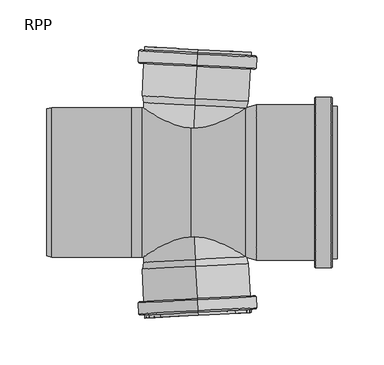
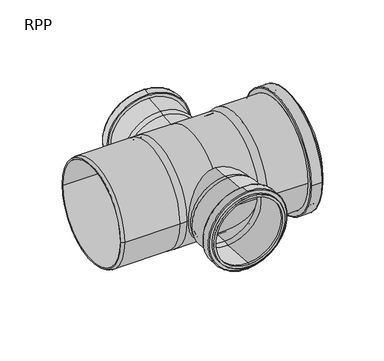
"""IFC4 building model written with IfcOpenShell, lengths in millimetres: pipe fitting geometry, RAUPIANO PLUS Double branch : RPP."""

from ifc_helpers import new_model, si_unit, point, frame, origin, place, context, project, spatial, polyline, circle_curve, ellipse_curve, trimmed, source, transform, mapped, element, save
from ifc_brep_helpers import plane_surface, cylinder_surface, revolved_surface, advanced_brep


def rpp_5ed4127f(model_context):
    return source(origin(), model_context, "Body", "AdvancedBrep", [
        advanced_brep(
        [(58.5, 80.0, 0.0), (58.5, -80.0, 0.0), (69.5, -82.9474411, 0.0), (69.5, 82.9474411, 0.0), (0.0, 80.0, 0.0), (0.0, -80.0, 0.0), (-52.3659564, 80.0, 0.0), (-52.3659564, -80.0, 0.0), (-63.5, 80.0, 0.0), (-63.5, -80.0, 0.0), (-148.5, 80.0, 0.0), (-148.5, -80.0, 0.0), (-154.0, 78.5262794, 0.0), (-154.0, -78.5262794, 0.0), (-63.5, 76.1, 0.0), (-63.5, -76.1, 0.0), (-154.0, -76.1, 0.0), (-154.0, 76.1, 0.0), (-52.2883429, 76.1, 0.0), (-52.2883429, -76.1, 0.0), (0.0, 76.1, 0.0), (0.0, -76.1, 0.0), (58.5, 76.1, 0.0), (58.5, -76.1, 0.0), (69.5, 79.0474411, 0.0), (69.5, -79.0474411, 0.0), (150.5, 79.0474411, 0.0), (150.5, -79.0474411, 0.0), (156.0, 79.0474411, 0.0), (156.0, -79.0474411, 0.0), (150.5, 81.6076952, 0.0), (150.5, -81.6076952, 0.0), (156.0, -81.6076952, 0.0), (156.0, 81.6076952, 0.0), (149.5, 91.0974411, 0.0), (149.5, -91.0974411, 0.0), (150.5, -90.0974411, 0.0), (150.5, 90.0974411, 0.0), (133.1, 91.0974411, 0.0), (133.1, -91.0974411, 0.0), (132.1, 90.0974411, 0.0), (132.1, -90.0974411, 0.0), (132.1, -82.9474411, 0.0), (132.1, 82.9474411, 0.0)],
        [
            (0, 1, circle_curve(frame((58.5, 0.0, 0.0), z_axis=(1.0, 0.0, 0.0), x_axis=(0.0, -1.0, 0.0)), 80.0)),
            (1, 2),
            (2, 3, circle_curve(frame((69.5, 0.0, 0.0), z_axis=(-1.0, 0.0, 0.0), x_axis=(0.0, -1.0, 0.0)), 82.9474411)),
            (3, 0),
            (0, 4),
            (4, 5, circle_curve(frame((0.0, 0.0, 0.0), z_axis=(1.0, 0.0, 0.0), x_axis=(0.0, -1.0, 0.0)), 80.0)),
            (5, 1),
            (4, 6),
            (6, 7, circle_curve(frame((-52.3659564, 0.0, 0.0), z_axis=(1.0, 0.0, 0.0), x_axis=(0.0, -1.0, 0.0)), 80.0)),
            (7, 5),
            (6, 8),
            (8, 9, circle_curve(frame((-63.5, 0.0, 0.0), z_axis=(1.0, 0.0, 0.0), x_axis=(0.0, -1.0, 0.0)), 80.0)),
            (9, 7),
            (8, 10),
            (10, 11, circle_curve(frame((-148.5, 0.0, 0.0), z_axis=(1.0, 0.0, 0.0), x_axis=(0.0, -1.0, 0.0)), 80.0)),
            (11, 9),
            (10, 12),
            (12, 13, circle_curve(frame((-154.0, 0.0, 0.0), z_axis=(1.0, 0.0, 0.0), x_axis=(0.0, -1.0, 0.0)), 78.5262794)),
            (13, 11),
            (14, 15, circle_curve(frame((-63.5, 0.0, 0.0), z_axis=(1.0, 0.0, 0.0), x_axis=(0.0, -1.0, 0.0)), 76.1)),
            (15, 16),
            (16, 17, circle_curve(frame((-154.0, 0.0, 0.0), z_axis=(-1.0, 0.0, 0.0), x_axis=(0.0, -1.0, 0.0)), 76.1)),
            (17, 14),
            (14, 18),
            (18, 19, circle_curve(frame((-52.2883429, 0.0, 0.0), z_axis=(1.0, 0.0, 0.0), x_axis=(0.0, -1.0, 0.0)), 76.1)),
            (19, 15),
            (18, 20),
            (20, 21, circle_curve(frame((0.0, 0.0, 0.0), z_axis=(1.0, 0.0, 0.0), x_axis=(0.0, -1.0, 0.0)), 76.1)),
            (21, 19),
            (20, 22),
            (22, 23, circle_curve(frame((58.5, 0.0, 0.0), z_axis=(1.0, 0.0, 0.0), x_axis=(0.0, -1.0, 0.0)), 76.1)),
            (23, 21),
            (22, 24),
            (24, 25, circle_curve(frame((69.5, 0.0, 0.0), z_axis=(1.0, 0.0, 0.0), x_axis=(0.0, -1.0, 0.0)), 79.0474411)),
            (25, 23),
            (24, 26),
            (26, 27, circle_curve(frame((150.5, 0.0, 0.0), z_axis=(1.0, 0.0, 0.0), x_axis=(0.0, -1.0, 0.0)), 79.0474411)),
            (27, 25),
            (26, 28),
            (28, 29, circle_curve(frame((156.0, 0.0, 0.0), z_axis=(1.0, 0.0, 0.0), x_axis=(0.0, -1.0, 0.0)), 79.0474411)),
            (29, 27),
            (30, 31, circle_curve(frame((150.5, 0.0, 0.0), z_axis=(1.0, 0.0, 0.0), x_axis=(0.0, -1.0, 0.0)), 81.6076952)),
            (31, 32),
            (32, 33, circle_curve(frame((156.0, 0.0, 0.0), z_axis=(-1.0, 0.0, 0.0), x_axis=(0.0, -1.0, 0.0)), 81.6076952)),
            (33, 30),
            (34, 35, circle_curve(frame((149.5, 0.0, 0.0), z_axis=(1.0, 0.0, 0.0), x_axis=(0.0, -1.0, 0.0)), 91.0974411)),
            (35, 36, circle_curve(frame((149.5, -90.0974411, 0.0), z_axis=(0.0, 0.0, 1.0), x_axis=(1.0, 0.0, 0.0)), 1.0)),
            (36, 37, circle_curve(frame((150.5, 0.0, 0.0), z_axis=(-1.0, 0.0, 0.0), x_axis=(0.0, -1.0, 0.0)), 90.0974411)),
            (37, 34, circle_curve(frame((149.5, 90.0974411, 0.0), z_axis=(0.0, 0.0, 1.0), x_axis=(1.0, 0.0, 0.0)), 1.0)),
            (34, 38),
            (38, 39, circle_curve(frame((133.1, 0.0, 0.0), z_axis=(1.0, 0.0, 0.0), x_axis=(0.0, -1.0, 0.0)), 91.0974411)),
            (39, 35),
            (38, 40, circle_curve(frame((133.1, 90.0974411, 0.0), z_axis=(0.0, 0.0, 1.0), x_axis=(1.0, 0.0, 0.0)), 1.0)),
            (40, 41, circle_curve(frame((132.1, 0.0, 0.0), z_axis=(1.0, 0.0, 0.0), x_axis=(0.0, -1.0, 0.0)), 90.0974411)),
            (41, 39, circle_curve(frame((133.1, -90.0974411, 0.0), z_axis=(0.0, 0.0, 1.0), x_axis=(1.0, 0.0, 0.0)), 1.0)),
            (2, 42),
            (42, 43, circle_curve(frame((132.1, 0.0, 0.0), z_axis=(-1.0, 0.0, 0.0), x_axis=(0.0, -1.0, 0.0)), 82.9474411)),
            (43, 3),
            (1, 0, circle_curve(frame((58.5, 0.0, 0.0), z_axis=(1.0, 0.0, 0.0), x_axis=(0.0, 1.0, 0.0)), 80.0)),
            (3, 2, circle_curve(frame((69.5, 0.0, 0.0), z_axis=(-1.0, 0.0, 0.0), x_axis=(0.0, 1.0, 0.0)), 82.9474411)),
            (5, 4, circle_curve(frame((0.0, 0.0, 0.0), z_axis=(1.0, 0.0, 0.0), x_axis=(0.0, 1.0, 0.0)), 80.0)),
            (7, 6, circle_curve(frame((-52.3659564, 0.0, 0.0), z_axis=(1.0, 0.0, 0.0), x_axis=(0.0, 1.0, 0.0)), 80.0)),
            (9, 8, circle_curve(frame((-63.5, 0.0, 0.0), z_axis=(1.0, 0.0, 0.0), x_axis=(0.0, 1.0, 0.0)), 80.0)),
            (11, 10, circle_curve(frame((-148.5, 0.0, 0.0), z_axis=(1.0, 0.0, 0.0), x_axis=(0.0, 1.0, 0.0)), 80.0)),
            (13, 12, circle_curve(frame((-154.0, 0.0, 0.0), z_axis=(1.0, 0.0, 0.0), x_axis=(0.0, 1.0, 0.0)), 78.5262794)),
            (16, 17, circle_curve(frame((-154.0, 0.0, 0.0), z_axis=(1.0, 0.0, 0.0), x_axis=(0.0, 1.0, 0.0)), 76.1)),
            (15, 14, circle_curve(frame((-63.5, 0.0, 0.0), z_axis=(1.0, 0.0, 0.0), x_axis=(0.0, 1.0, 0.0)), 76.1)),
            (19, 18, circle_curve(frame((-52.2883429, 0.0, 0.0), z_axis=(1.0, 0.0, 0.0), x_axis=(0.0, 1.0, 0.0)), 76.1)),
            (21, 20, circle_curve(frame((0.0, 0.0, 0.0), z_axis=(1.0, 0.0, 0.0), x_axis=(0.0, 1.0, 0.0)), 76.1)),
            (23, 22, circle_curve(frame((58.5, 0.0, 0.0), z_axis=(1.0, 0.0, 0.0), x_axis=(0.0, 1.0, 0.0)), 76.1)),
            (25, 24, circle_curve(frame((69.5, 0.0, 0.0), z_axis=(1.0, 0.0, 0.0), x_axis=(0.0, 1.0, 0.0)), 79.0474411)),
            (27, 26, circle_curve(frame((150.5, 0.0, 0.0), z_axis=(1.0, 0.0, 0.0), x_axis=(0.0, 1.0, 0.0)), 79.0474411)),
            (29, 28, circle_curve(frame((156.0, 0.0, 0.0), z_axis=(1.0, 0.0, 0.0), x_axis=(0.0, 1.0, 0.0)), 79.0474411)),
            (32, 33, circle_curve(frame((156.0, 0.0, 0.0), z_axis=(1.0, 0.0, 0.0), x_axis=(0.0, 1.0, 0.0)), 81.6076952)),
            (31, 30, circle_curve(frame((150.5, 0.0, 0.0), z_axis=(1.0, 0.0, 0.0), x_axis=(0.0, 1.0, 0.0)), 81.6076952)),
            (36, 37, circle_curve(frame((150.5, 0.0, 0.0), z_axis=(1.0, 0.0, 0.0), x_axis=(0.0, 1.0, 0.0)), 90.0974411)),
            (35, 34, circle_curve(frame((149.5, 0.0, 0.0), z_axis=(1.0, 0.0, 0.0), x_axis=(0.0, 1.0, 0.0)), 91.0974411)),
            (39, 38, circle_curve(frame((133.1, 0.0, 0.0), z_axis=(1.0, 0.0, 0.0), x_axis=(0.0, 1.0, 0.0)), 91.0974411)),
            (41, 40, circle_curve(frame((132.1, 0.0, 0.0), z_axis=(1.0, 0.0, 0.0), x_axis=(0.0, 1.0, 0.0)), 90.0974411)),
            (42, 43, circle_curve(frame((132.1, 0.0, 0.0), z_axis=(1.0, 0.0, 0.0), x_axis=(0.0, 1.0, 0.0)), 82.9474411)),
        ],
        [
            revolved_surface(polyline([(69.5, -82.9474411, 0.0), (58.5, -80.0, 0.0)]), (0.0, 0.0, 0.0), (-1.0, 0.0, 0.0)),
            cylinder_surface(frame((0.0, 0.0, 0.0), z_axis=(-1.0, 0.0, 0.0), x_axis=(0.0, -1.0, 0.0)), 80.0),
            revolved_surface(polyline([(-148.5, -80.0, 0.0), (-154.0, -78.5262794, 0.0)]), (0.0, 0.0, 0.0), (-1.0, 0.0, 0.0)),
            revolved_surface(polyline([(-154.0, -76.1, 0.0), (-63.5, -76.1, 0.0)]), (0.0, 0.0, 0.0), (-1.0, 0.0, 0.0)),
            revolved_surface(polyline([(-63.5, -76.1, 0.0), (-52.2883429, -76.1, 0.0)]), (0.0, 0.0, 0.0), (-1.0, 0.0, 0.0)),
            revolved_surface(polyline([(-52.2883429, -76.1, 0.0), (0.0, -76.1, 0.0)]), (0.0, 0.0, 0.0), (-1.0, 0.0, 0.0)),
            revolved_surface(polyline([(0.0, -76.1, 0.0), (58.5, -76.1, 0.0)]), (0.0, 0.0, 0.0), (-1.0, 0.0, 0.0)),
            revolved_surface(polyline([(58.5, -76.1, 0.0), (69.5, -79.0474411, 0.0)]), (0.0, 0.0, 0.0), (-1.0, 0.0, 0.0)),
            revolved_surface(polyline([(69.5, -79.0474411, 0.0), (150.5, -79.0474411, 0.0)]), (0.0, 0.0, 0.0), (-1.0, 0.0, 0.0)),
            revolved_surface(polyline([(150.5, -79.0474411, 0.0), (156.0, -79.0474411, 0.0)]), (0.0, 0.0, 0.0), (-1.0, 0.0, 0.0)),
            cylinder_surface(frame((0.0, 0.0, 0.0), z_axis=(-1.0, 0.0, 0.0), x_axis=(0.0, -1.0, 0.0)), 81.6076952),
            revolved_surface(trimmed(ellipse_curve(frame((149.5, -90.0974411, 0.0), z_axis=(0.0, 0.0, -1.0), x_axis=(1.0, 0.0, 0.0)), 1.0, 1.0), [point((150.5, -90.0974411, 0.0))], [point((149.5, -91.0974411, 0.0))], True, "CARTESIAN"), (0.0, 0.0, 0.0), (-1.0, 0.0, 0.0)),
            cylinder_surface(frame((0.0, 0.0, 0.0), z_axis=(-1.0, 0.0, 0.0), x_axis=(0.0, -1.0, 0.0)), 91.0974411),
            revolved_surface(trimmed(ellipse_curve(frame((133.1, -90.0974411, 0.0), z_axis=(0.0, 0.0, -1.0), x_axis=(1.0, 0.0, 0.0)), 1.0, 1.0), [point((133.1, -91.0974411, 0.0))], [point((132.1, -90.0974411, 0.0))], True, "CARTESIAN"), (0.0, 0.0, 0.0), (-1.0, 0.0, 0.0)),
            cylinder_surface(frame((0.0, 0.0, 0.0), z_axis=(-1.0, 0.0, 0.0), x_axis=(0.0, -1.0, 0.0)), 82.9474411),
            revolved_surface(polyline([(69.5, 82.9474411, 0.0), (58.5, 80.0, 0.0)]), (0.0, 0.0, 0.0), (-1.0, 0.0, 0.0)),
            cylinder_surface(frame((0.0, 0.0, 0.0), z_axis=(-1.0, 0.0, 0.0), x_axis=(0.0, 1.0, 0.0)), 80.0),
            revolved_surface(polyline([(-148.5, 80.0, 0.0), (-154.0, 78.5262794, 0.0)]), (0.0, 0.0, 0.0), (-1.0, 0.0, 0.0)),
            plane_surface(frame((-154.0, 0.0, 0.0), z_axis=(-1.0, 0.0, 0.0), x_axis=(0.0, 1.0, 0.0))),
            revolved_surface(polyline([(-154.0, 76.1, 0.0), (-63.5, 76.1, 0.0)]), (0.0, 0.0, 0.0), (-1.0, 0.0, 0.0)),
            revolved_surface(polyline([(-63.5, 76.1, 0.0), (-52.2883429, 76.1, 0.0)]), (0.0, 0.0, 0.0), (-1.0, 0.0, 0.0)),
            revolved_surface(polyline([(-52.2883429, 76.1, 0.0), (0.0, 76.1, 0.0)]), (0.0, 0.0, 0.0), (-1.0, 0.0, 0.0)),
            revolved_surface(polyline([(0.0, 76.1, 0.0), (58.5, 76.1, 0.0)]), (0.0, 0.0, 0.0), (-1.0, 0.0, 0.0)),
            revolved_surface(polyline([(58.5, 76.1, 0.0), (69.5, 79.0474411, 0.0)]), (0.0, 0.0, 0.0), (-1.0, 0.0, 0.0)),
            revolved_surface(polyline([(69.5, 79.0474411, 0.0), (150.5, 79.0474411, 0.0)]), (0.0, 0.0, 0.0), (-1.0, 0.0, 0.0)),
            revolved_surface(polyline([(150.5, 79.0474411, 0.0), (156.0, 79.0474411, 0.0)]), (0.0, 0.0, 0.0), (-1.0, 0.0, 0.0)),
            plane_surface(frame((156.0, 0.0, 0.0), z_axis=(1.0, 0.0, 0.0), x_axis=(0.0, 1.0, 0.0))),
            cylinder_surface(frame((0.0, 0.0, 0.0), z_axis=(-1.0, 0.0, 0.0), x_axis=(0.0, 1.0, 0.0)), 81.6076952),
            plane_surface(frame((150.5, 0.0, 0.0), z_axis=(1.0, 0.0, 0.0), x_axis=(0.0, 1.0, 0.0))),
            revolved_surface(trimmed(ellipse_curve(frame((149.5, 90.0974411, 0.0), z_axis=(0.0, 0.0, 1.0), x_axis=(1.0, 0.0, 0.0)), 1.0, 1.0), [point((150.5, 90.0974411, 0.0))], [point((149.5, 91.0974411, 0.0))], True, "CARTESIAN"), (0.0, 0.0, 0.0), (-1.0, 0.0, 0.0)),
            cylinder_surface(frame((0.0, 0.0, 0.0), z_axis=(-1.0, 0.0, 0.0), x_axis=(0.0, 1.0, 0.0)), 91.0974411),
            revolved_surface(trimmed(ellipse_curve(frame((133.1, 90.0974411, 0.0), z_axis=(0.0, 0.0, 1.0), x_axis=(1.0, 0.0, 0.0)), 1.0, 1.0), [point((133.1, 91.0974411, 0.0))], [point((132.1, 90.0974411, 0.0))], True, "CARTESIAN"), (0.0, 0.0, 0.0), (-1.0, 0.0, 0.0)),
            plane_surface(frame((132.1, 0.0, 0.0), z_axis=(-1.0, 0.0, 0.0), x_axis=(0.0, 1.0, 0.0))),
            cylinder_surface(frame((0.0, 0.0, 0.0), z_axis=(-1.0, 0.0, 0.0), x_axis=(0.0, 1.0, 0.0)), 82.9474411),
        ],
        [
            (0, [[1, 2, 3, 4]]),
            (1, [[-1, 5, 6, 7]]),
            (1, [[-6, 8, 9, 10]]),
            (1, [[-9, 11, 12, 13]]),
            (1, [[-12, 14, 15, 16]]),
            (2, [[-15, 17, 18, 19]]),
            (3, [[20, 21, 22, 23]]),
            (4, [[-20, 24, 25, 26]]),
            (5, [[-25, 27, 28, 29]]),
            (6, [[-28, 30, 31, 32]]),
            (7, [[-31, 33, 34, 35]]),
            (8, [[-34, 36, 37, 38]]),
            (9, [[-37, 39, 40, 41]]),
            (10, [[42, 43, 44, 45]]),
            (11, [[46, 47, 48, 49]]),
            (12, [[-46, 50, 51, 52]]),
            (13, [[-51, 53, 54, 55]]),
            (14, [[-3, 56, 57, 58]]),
            (15, [[-2, 59, -4, 60]]),
            (16, [[-7, 61, -5, -59]]),
            (16, [[-10, 62, -8, -61]]),
            (16, [[-13, 63, -11, -62]]),
            (16, [[-16, 64, -14, -63]]),
            (17, [[-19, 65, -17, -64]]),
            (18, [[-18, -65], [-22, 66]]),
            (19, [[-21, 67, -23, -66]]),
            (20, [[-26, 68, -24, -67]]),
            (21, [[-29, 69, -27, -68]]),
            (22, [[-32, 70, -30, -69]]),
            (23, [[-35, 71, -33, -70]]),
            (24, [[-38, 72, -36, -71]]),
            (25, [[-41, 73, -39, -72]]),
            (26, [[-44, 74], [-40, -73]]),
            (27, [[-43, 75, -45, -74]]),
            (28, [[-48, 76], [-42, -75]]),
            (29, [[-47, 77, -49, -76]]),
            (30, [[-52, 78, -50, -77]]),
            (31, [[-55, 79, -53, -78]]),
            (32, [[-54, -79], [-57, 80]]),
            (33, [[-56, -60, -58, -80]]),
        ],
    ),
        advanced_brep(
        [(4.3124828, -82.2870737, 55.0), (4.3124828, -82.2870737, -55.0), (4.6893017, -89.4772063, -56.9292342), (4.6893017, -89.4772063, 56.9292342), (4.6893017, -89.4772063, 53.0292342), (4.6893017, -89.4772063, -53.0292342), (4.3124828, -82.2870737, -51.1), (4.3124828, -82.2870737, 51.1), (7.2432963, -138.2103276, 53.0292342), (7.2432963, -138.2103276, -53.0292342), (7.4317058, -141.8053939, 53.0292342), (7.4317058, -141.8053939, -53.0292342), (7.2432963, -138.2103276, 56.6076952), (7.2432963, -138.2103276, -56.6076952), (7.4317058, -141.8053939, -56.6076952), (7.4317058, -141.8053939, 56.6076952), (7.1909604, -137.2116981, 62.9292342), (7.1909604, -137.2116981, -62.9292342), (7.2432963, -138.2103276, -61.9292342), (7.2432963, -138.2103276, 61.9292342), (6.5681625, -125.3280066, 62.9292342), (6.5681625, -125.3280066, -62.9292342), (6.5158266, -124.3293771, 61.9292342), (6.5158266, -124.3293771, -61.9292342), (6.5158266, -124.3293771, -56.9292342), (6.5158266, -124.3293771, 56.9292342)],
        [
            (0, 1, circle_curve(frame((4.3124828, -82.2870737, 0.0), z_axis=(0.052335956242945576, -0.9986295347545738, 0.0), x_axis=(0.0, 0.0, -1.0)), 55.0)),
            (1, 2),
            (2, 3, circle_curve(frame((4.6893017, -89.4772063, 0.0), z_axis=(-0.052335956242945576, 0.9986295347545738, 0.0), x_axis=(0.0, 0.0, -1.0)), 56.9292342)),
            (3, 0),
            (4, 5, circle_curve(frame((4.6893017, -89.4772063, 0.0), z_axis=(0.052335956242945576, -0.9986295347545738, 0.0), x_axis=(0.0, 0.0, -1.0)), 53.0292342)),
            (5, 6),
            (6, 7, circle_curve(frame((4.3124828, -82.2870737, 0.0), z_axis=(-0.052335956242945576, 0.9986295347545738, 0.0), x_axis=(0.0, 0.0, -1.0)), 51.1)),
            (7, 4),
            (8, 9, circle_curve(frame((7.2432963, -138.2103276, 0.0), z_axis=(0.052335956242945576, -0.9986295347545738, 0.0), x_axis=(0.0, 0.0, -1.0)), 53.0292342)),
            (9, 5),
            (4, 8),
            (10, 11, circle_curve(frame((7.4317058, -141.8053939, 0.0), z_axis=(0.052335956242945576, -0.9986295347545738, 0.0), x_axis=(0.0, 0.0, -1.0)), 53.0292342)),
            (11, 9),
            (8, 10),
            (12, 13, circle_curve(frame((7.2432963, -138.2103276, 0.0), z_axis=(0.052335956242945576, -0.9986295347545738, 0.0), x_axis=(0.0, 0.0, -1.0)), 56.6076952)),
            (13, 14),
            (14, 15, circle_curve(frame((7.4317058, -141.8053939, 0.0), z_axis=(-0.052335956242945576, 0.9986295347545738, 0.0), x_axis=(0.0, 0.0, -1.0)), 56.6076952)),
            (15, 12),
            (16, 17, circle_curve(frame((7.1909604, -137.2116981, 0.0), z_axis=(0.052335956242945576, -0.9986295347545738, 0.0), x_axis=(0.0, 0.0, -1.0)), 62.9292342)),
            (17, 18, circle_curve(frame((7.1909604, -137.2116981, -61.9292342), z_axis=(-0.9986295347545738, -0.05233595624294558, 0.0), x_axis=(0.05233595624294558, -0.9986295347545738, 0.0)), 1.0)),
            (18, 19, circle_curve(frame((7.2432963, -138.2103276, 0.0), z_axis=(-0.052335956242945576, 0.9986295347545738, 0.0), x_axis=(0.0, 0.0, -1.0)), 61.9292342)),
            (19, 16, circle_curve(frame((7.1909604, -137.2116981, 61.9292342), z_axis=(-0.9986295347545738, -0.05233595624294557, 0.0), x_axis=(0.05233595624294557, -0.9986295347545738, 0.0)), 1.0)),
            (20, 21, circle_curve(frame((6.5681625, -125.3280066, 0.0), z_axis=(0.052335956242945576, -0.9986295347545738, 0.0), x_axis=(0.0, 0.0, -1.0)), 62.9292342)),
            (21, 17),
            (16, 20),
            (22, 23, circle_curve(frame((6.5158266, -124.3293771, 0.0), z_axis=(0.052335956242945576, -0.9986295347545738, 0.0), x_axis=(0.0, 0.0, -1.0)), 61.9292342)),
            (23, 21, circle_curve(frame((6.5681625, -125.3280066, -61.9292342), z_axis=(-0.9986295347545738, -0.05233595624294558, 0.0), x_axis=(0.05233595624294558, -0.9986295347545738, 0.0)), 1.0)),
            (20, 22, circle_curve(frame((6.5681625, -125.3280066, 61.9292342), z_axis=(-0.9986295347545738, -0.05233595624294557, 0.0), x_axis=(0.05233595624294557, -0.9986295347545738, 0.0)), 1.0)),
            (2, 24),
            (24, 25, circle_curve(frame((6.5158266, -124.3293771, 0.0), z_axis=(-0.052335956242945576, 0.9986295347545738, 0.0), x_axis=(0.0, 0.0, -1.0)), 56.9292342)),
            (25, 3),
            (1, 0, circle_curve(frame((4.3124828, -82.2870737, 0.0), z_axis=(0.052335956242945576, -0.9986295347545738, 0.0), x_axis=(0.0, 0.0, 1.0)), 55.0)),
            (3, 2, circle_curve(frame((4.6893017, -89.4772063, 0.0), z_axis=(-0.052335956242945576, 0.9986295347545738, 0.0), x_axis=(0.0, 0.0, 1.0)), 56.9292342)),
            (6, 7, circle_curve(frame((4.3124828, -82.2870737, 0.0), z_axis=(0.052335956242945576, -0.9986295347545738, 0.0), x_axis=(0.0, 0.0, 1.0)), 51.1)),
            (5, 4, circle_curve(frame((4.6893017, -89.4772063, 0.0), z_axis=(0.052335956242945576, -0.9986295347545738, 0.0), x_axis=(0.0, 0.0, 1.0)), 53.0292342)),
            (9, 8, circle_curve(frame((7.2432963, -138.2103276, 0.0), z_axis=(0.052335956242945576, -0.9986295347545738, 0.0), x_axis=(0.0, 0.0, 1.0)), 53.0292342)),
            (11, 10, circle_curve(frame((7.4317058, -141.8053939, 0.0), z_axis=(0.052335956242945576, -0.9986295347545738, 0.0), x_axis=(0.0, 0.0, 1.0)), 53.0292342)),
            (14, 15, circle_curve(frame((7.4317058, -141.8053939, 0.0), z_axis=(0.052335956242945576, -0.9986295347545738, 0.0), x_axis=(0.0, 0.0, 1.0)), 56.6076952)),
            (13, 12, circle_curve(frame((7.2432963, -138.2103276, 0.0), z_axis=(0.052335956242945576, -0.9986295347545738, 0.0), x_axis=(0.0, 0.0, 1.0)), 56.6076952)),
            (18, 19, circle_curve(frame((7.2432963, -138.2103276, 0.0), z_axis=(0.052335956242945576, -0.9986295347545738, 0.0), x_axis=(0.0, 0.0, 1.0)), 61.9292342)),
            (17, 16, circle_curve(frame((7.1909604, -137.2116981, 0.0), z_axis=(0.052335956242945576, -0.9986295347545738, 0.0), x_axis=(0.0, 0.0, 1.0)), 62.9292342)),
            (21, 20, circle_curve(frame((6.5681625, -125.3280066, 0.0), z_axis=(0.052335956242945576, -0.9986295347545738, 0.0), x_axis=(0.0, 0.0, 1.0)), 62.9292342)),
            (23, 22, circle_curve(frame((6.5158266, -124.3293771, 0.0), z_axis=(0.052335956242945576, -0.9986295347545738, 0.0), x_axis=(0.0, 0.0, 1.0)), 61.9292342)),
            (24, 25, circle_curve(frame((6.5158266, -124.3293771, 0.0), z_axis=(0.052335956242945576, -0.9986295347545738, 0.0), x_axis=(0.0, 0.0, 1.0)), 56.9292342)),
        ],
        [
            revolved_surface(polyline([(4.6893017, -89.4772063, -56.9292342), (4.3124828, -82.2870737, -55.0)]), (0.0, 0.0, 0.0), (-0.052335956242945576, 0.9986295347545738, 0.0)),
            revolved_surface(polyline([(4.3124828, -82.2870737, -51.1), (4.6893017, -89.4772063, -53.0292342)]), (0.0, 0.0, 0.0), (-0.052335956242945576, 0.9986295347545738, 0.0)),
            revolved_surface(polyline([(4.689301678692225, -89.47720630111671, -53.0292342), (7.243296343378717, -138.21032759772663, -53.0292342)]), (0.0, 0.0, 0.0), (-0.052335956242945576, 0.9986295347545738, 0.0)),
            revolved_surface(polyline([(7.243296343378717, -138.21032759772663, -53.0292342), (7.4317057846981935, -141.80539390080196, -53.0292342)]), (0.0, 0.0, 0.0), (-0.052335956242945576, 0.9986295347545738, 0.0)),
            cylinder_surface(frame((0.0, 0.0, 0.0), z_axis=(-0.052335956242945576, 0.9986295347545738, 0.0), x_axis=(0.0, 0.0, -1.0)), 56.6076952),
            revolved_surface(trimmed(ellipse_curve(frame((7.1909604, -137.2116981, -61.9292342), z_axis=(0.9986295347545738, 0.05233595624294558, 0.0), x_axis=(0.05233595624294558, -0.9986295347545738, 0.0)), 1.0, 1.0), [point((7.2432963, -138.2103276, -61.9292342))], [point((7.1909604, -137.2116981, -62.9292342))], True, "CARTESIAN"), (0.0, 0.0, 0.0), (-0.052335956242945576, 0.9986295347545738, 0.0)),
            cylinder_surface(frame((0.0, 0.0, 0.0), z_axis=(-0.052335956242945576, 0.9986295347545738, 0.0), x_axis=(0.0, 0.0, -1.0)), 62.9292342),
            revolved_surface(trimmed(ellipse_curve(frame((6.5681625, -125.3280066, -61.9292342), z_axis=(0.9986295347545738, 0.05233595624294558, 0.0), x_axis=(0.05233595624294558, -0.9986295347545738, 0.0)), 1.0, 1.0), [point((6.5681625, -125.3280066, -62.9292342))], [point((6.5158266, -124.3293771, -61.9292342))], True, "CARTESIAN"), (0.0, 0.0, 0.0), (-0.052335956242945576, 0.9986295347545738, 0.0)),
            cylinder_surface(frame((0.0, 0.0, 0.0), z_axis=(-0.052335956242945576, 0.9986295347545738, 0.0), x_axis=(0.0, 0.0, -1.0)), 56.9292342),
            revolved_surface(polyline([(4.6893017, -89.4772063, 56.9292342), (4.3124828, -82.2870737, 55.0)]), (0.0, 0.0, 0.0), (-0.052335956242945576, 0.9986295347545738, 0.0)),
            plane_surface(frame((4.3124828, -82.2870737, 0.0), z_axis=(-0.052335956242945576, 0.9986295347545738, 0.0), x_axis=(0.0, 0.0, 1.0))),
            revolved_surface(polyline([(4.3124828, -82.2870737, 51.1), (4.6893017, -89.4772063, 53.0292342)]), (0.0, 0.0, 0.0), (-0.052335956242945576, 0.9986295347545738, 0.0)),
            revolved_surface(polyline([(4.689301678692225, -89.47720630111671, 53.0292342), (7.243296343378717, -138.21032759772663, 53.0292342)]), (0.0, 0.0, 0.0), (-0.052335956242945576, 0.9986295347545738, 0.0)),
            revolved_surface(polyline([(7.243296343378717, -138.21032759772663, 53.0292342), (7.4317057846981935, -141.80539390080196, 53.0292342)]), (0.0, 0.0, 0.0), (-0.052335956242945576, 0.9986295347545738, 0.0)),
            plane_surface(frame((7.4317058, -141.8053939, 0.0), z_axis=(0.052335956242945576, -0.9986295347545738, 0.0), x_axis=(0.0, 0.0, 1.0))),
            cylinder_surface(frame((0.0, 0.0, 0.0), z_axis=(-0.052335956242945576, 0.9986295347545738, 0.0), x_axis=(0.0, 0.0, 1.0)), 56.6076952),
            plane_surface(frame((7.2432963, -138.2103276, 0.0), z_axis=(0.052335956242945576, -0.9986295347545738, 0.0), x_axis=(0.0, 0.0, 1.0))),
            revolved_surface(trimmed(ellipse_curve(frame((7.1909604, -137.2116981, 61.9292342), z_axis=(-0.9986295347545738, -0.052335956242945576, 0.0), x_axis=(0.052335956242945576, -0.9986295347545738, 0.0)), 1.0, 1.0), [point((7.2432963, -138.2103276, 61.9292342))], [point((7.1909604, -137.2116981, 62.9292342))], True, "CARTESIAN"), (0.0, 0.0, 0.0), (-0.052335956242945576, 0.9986295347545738, 0.0)),
            cylinder_surface(frame((0.0, 0.0, 0.0), z_axis=(-0.052335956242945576, 0.9986295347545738, 0.0), x_axis=(0.0, 0.0, 1.0)), 62.9292342),
            revolved_surface(trimmed(ellipse_curve(frame((6.5681625, -125.3280066, 61.9292342), z_axis=(-0.9986295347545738, -0.052335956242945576, 0.0), x_axis=(0.052335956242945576, -0.9986295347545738, 0.0)), 1.0, 1.0), [point((6.5681625, -125.3280066, 62.9292342))], [point((6.5158266, -124.3293771, 61.9292342))], True, "CARTESIAN"), (0.0, 0.0, 0.0), (-0.052335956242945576, 0.9986295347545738, 0.0)),
            plane_surface(frame((6.5158266, -124.3293771, 0.0), z_axis=(-0.052335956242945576, 0.9986295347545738, 0.0), x_axis=(0.0, 0.0, 1.0))),
            cylinder_surface(frame((0.0, 0.0, 0.0), z_axis=(-0.052335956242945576, 0.9986295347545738, 0.0), x_axis=(0.0, 0.0, 1.0)), 56.9292342),
        ],
        [
            (0, [[1, 2, 3, 4]]),
            (1, [[5, 6, 7, 8]]),
            (2, [[9, 10, -5, 11]]),
            (3, [[12, 13, -9, 14]]),
            (4, [[15, 16, 17, 18]]),
            (5, [[19, 20, 21, 22]]),
            (6, [[23, 24, -19, 25]]),
            (7, [[26, 27, -23, 28]]),
            (8, [[-3, 29, 30, 31]]),
            (9, [[32, -4, 33, -2]]),
            (10, [[-32, -1], [34, -7]]),
            (11, [[35, -8, -34, -6]]),
            (12, [[36, -11, -35, -10]]),
            (13, [[37, -14, -36, -13]]),
            (14, [[38, -17], [-37, -12]]),
            (15, [[39, -18, -38, -16]]),
            (16, [[40, -21], [-39, -15]]),
            (17, [[41, -22, -40, -20]]),
            (18, [[42, -25, -41, -24]]),
            (19, [[43, -28, -42, -27]]),
            (20, [[-43, -26], [44, -30]]),
            (21, [[-33, -31, -44, -29]]),
        ],
    ),
        advanced_brep(
        [(4.3124828, -82.2870737, 55.0), (4.3124828, -82.2870737, -55.0), (4.6893017, -89.4772063, -56.9292342), (4.6893017, -89.4772063, 56.9292342), (0.0, 0.0, 55.0), (0.0, 0.0, -55.0), (4.3124828, -82.2870737, 51.1), (4.3124828, -82.2870737, -51.1), (0.0, 0.0, -51.1), (0.0, 0.0, 51.1), (4.6893017, -89.4772063, 53.0292342), (4.6893017, -89.4772063, -53.0292342), (7.2432963, -138.2103276, 53.0292342), (7.2432963, -138.2103276, -53.0292342), (7.4317058, -141.8053939, 53.0292342), (7.4317058, -141.8053939, -53.0292342), (7.2432963, -138.2103276, 56.9292342), (7.2432963, -138.2103276, -56.9292342), (7.4317058, -141.8053939, -56.9292342), (7.4317058, -141.8053939, 56.9292342), (7.1909604, -137.2116981, 62.9292342), (7.1909604, -137.2116981, -62.9292342), (7.2432963, -138.2103276, -61.9292342), (7.2432963, -138.2103276, 61.9292342), (6.5681625, -125.3280066, 62.9292342), (6.5681625, -125.3280066, -62.9292342), (6.5158266, -124.3293771, 61.9292342), (6.5158266, -124.3293771, -61.9292342), (6.5158266, -124.3293771, -56.9292342), (6.5158266, -124.3293771, 56.9292342)],
        [
            (0, 1, circle_curve(frame((4.3124828, -82.2870737, 0.0), z_axis=(0.052335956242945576, -0.9986295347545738, 0.0), x_axis=(0.0, 0.0, -1.0)), 55.0)),
            (1, 2),
            (2, 3, circle_curve(frame((4.6893017, -89.4772063, 0.0), z_axis=(-0.052335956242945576, 0.9986295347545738, 0.0), x_axis=(0.0, 0.0, -1.0)), 56.9292342)),
            (3, 0),
            (4, 5, circle_curve(frame((0.0, 0.0, 0.0), z_axis=(0.052335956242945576, -0.9986295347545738, 0.0), x_axis=(0.0, 0.0, -1.0)), 55.0)),
            (5, 1),
            (0, 4),
            (6, 7, circle_curve(frame((4.3124828, -82.2870737, 0.0), z_axis=(0.052335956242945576, -0.9986295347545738, 0.0), x_axis=(0.0, 0.0, -1.0)), 51.1)),
            (7, 8),
            (8, 9, circle_curve(frame((0.0, 0.0, 0.0), z_axis=(-0.052335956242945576, 0.9986295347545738, 0.0), x_axis=(0.0, 0.0, -1.0)), 51.1)),
            (9, 6),
            (10, 11, circle_curve(frame((4.6893017, -89.4772063, 0.0), z_axis=(0.052335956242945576, -0.9986295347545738, 0.0), x_axis=(0.0, 0.0, -1.0)), 53.0292342)),
            (11, 7),
            (6, 10),
            (12, 13, circle_curve(frame((7.2432963, -138.2103276, 0.0), z_axis=(0.052335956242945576, -0.9986295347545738, 0.0), x_axis=(0.0, 0.0, -1.0)), 53.0292342)),
            (13, 11),
            (10, 12),
            (14, 15, circle_curve(frame((7.4317058, -141.8053939, 0.0), z_axis=(0.052335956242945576, -0.9986295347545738, 0.0), x_axis=(0.0, 0.0, -1.0)), 53.0292342)),
            (15, 13),
            (12, 14),
            (16, 17, circle_curve(frame((7.2432963, -138.2103276, 0.0), z_axis=(0.052335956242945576, -0.9986295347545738, 0.0), x_axis=(0.0, 0.0, -1.0)), 56.9292342)),
            (17, 18),
            (18, 19, circle_curve(frame((7.4317058, -141.8053939, 0.0), z_axis=(-0.052335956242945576, 0.9986295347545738, 0.0), x_axis=(0.0, 0.0, -1.0)), 56.9292342)),
            (19, 16),
            (20, 21, circle_curve(frame((7.1909604, -137.2116981, 0.0), z_axis=(0.052335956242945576, -0.9986295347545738, 0.0), x_axis=(0.0, 0.0, -1.0)), 62.9292342)),
            (21, 22, circle_curve(frame((7.1909604, -137.2116981, -61.9292342), z_axis=(-0.9986295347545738, -0.05233595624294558, 0.0), x_axis=(0.05233595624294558, -0.9986295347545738, 0.0)), 1.0)),
            (22, 23, circle_curve(frame((7.2432963, -138.2103276, 0.0), z_axis=(-0.052335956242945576, 0.9986295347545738, 0.0), x_axis=(0.0, 0.0, -1.0)), 61.9292342)),
            (23, 20, circle_curve(frame((7.1909604, -137.2116981, 61.9292342), z_axis=(-0.9986295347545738, -0.05233595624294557, 0.0), x_axis=(0.05233595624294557, -0.9986295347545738, 0.0)), 1.0)),
            (24, 25, circle_curve(frame((6.5681625, -125.3280066, 0.0), z_axis=(0.052335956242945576, -0.9986295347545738, 0.0), x_axis=(0.0, 0.0, -1.0)), 62.9292342)),
            (25, 21),
            (20, 24),
            (26, 27, circle_curve(frame((6.5158266, -124.3293771, 0.0), z_axis=(0.052335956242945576, -0.9986295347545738, 0.0), x_axis=(0.0, 0.0, -1.0)), 61.9292342)),
            (27, 25, circle_curve(frame((6.5681625, -125.3280066, -61.9292342), z_axis=(-0.9986295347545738, -0.05233595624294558, 0.0), x_axis=(0.05233595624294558, -0.9986295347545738, 0.0)), 1.0)),
            (24, 26, circle_curve(frame((6.5681625, -125.3280066, 61.9292342), z_axis=(-0.9986295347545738, -0.05233595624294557, 0.0), x_axis=(0.05233595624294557, -0.9986295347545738, 0.0)), 1.0)),
            (2, 28),
            (28, 29, circle_curve(frame((6.5158266, -124.3293771, 0.0), z_axis=(-0.052335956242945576, 0.9986295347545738, 0.0), x_axis=(0.0, 0.0, -1.0)), 56.9292342)),
            (29, 3),
            (1, 0, circle_curve(frame((4.3124828, -82.2870737, 0.0), z_axis=(0.052335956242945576, -0.9986295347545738, 0.0), x_axis=(0.0, 0.0, 1.0)), 55.0)),
            (3, 2, circle_curve(frame((4.6893017, -89.4772063, 0.0), z_axis=(-0.052335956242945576, 0.9986295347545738, 0.0), x_axis=(0.0, 0.0, 1.0)), 56.9292342)),
            (5, 4, circle_curve(frame((0.0, 0.0, 0.0), z_axis=(0.052335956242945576, -0.9986295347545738, 0.0), x_axis=(0.0, 0.0, 1.0)), 55.0)),
            (8, 9, circle_curve(frame((0.0, 0.0, 0.0), z_axis=(0.052335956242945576, -0.9986295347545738, 0.0), x_axis=(0.0, 0.0, 1.0)), 51.1)),
            (7, 6, circle_curve(frame((4.3124828, -82.2870737, 0.0), z_axis=(0.052335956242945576, -0.9986295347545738, 0.0), x_axis=(0.0, 0.0, 1.0)), 51.1)),
            (11, 10, circle_curve(frame((4.6893017, -89.4772063, 0.0), z_axis=(0.052335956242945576, -0.9986295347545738, 0.0), x_axis=(0.0, 0.0, 1.0)), 53.0292342)),
            (13, 12, circle_curve(frame((7.2432963, -138.2103276, 0.0), z_axis=(0.052335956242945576, -0.9986295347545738, 0.0), x_axis=(0.0, 0.0, 1.0)), 53.0292342)),
            (15, 14, circle_curve(frame((7.4317058, -141.8053939, 0.0), z_axis=(0.052335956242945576, -0.9986295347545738, 0.0), x_axis=(0.0, 0.0, 1.0)), 53.0292342)),
            (18, 19, circle_curve(frame((7.4317058, -141.8053939, 0.0), z_axis=(0.052335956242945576, -0.9986295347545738, 0.0), x_axis=(0.0, 0.0, 1.0)), 56.9292342)),
            (17, 16, circle_curve(frame((7.2432963, -138.2103276, 0.0), z_axis=(0.052335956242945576, -0.9986295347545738, 0.0), x_axis=(0.0, 0.0, 1.0)), 56.9292342)),
            (22, 23, circle_curve(frame((7.2432963, -138.2103276, 0.0), z_axis=(0.052335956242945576, -0.9986295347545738, 0.0), x_axis=(0.0, 0.0, 1.0)), 61.9292342)),
            (21, 20, circle_curve(frame((7.1909604, -137.2116981, 0.0), z_axis=(0.052335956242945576, -0.9986295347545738, 0.0), x_axis=(0.0, 0.0, 1.0)), 62.9292342)),
            (25, 24, circle_curve(frame((6.5681625, -125.3280066, 0.0), z_axis=(0.052335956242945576, -0.9986295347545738, 0.0), x_axis=(0.0, 0.0, 1.0)), 62.9292342)),
            (27, 26, circle_curve(frame((6.5158266, -124.3293771, 0.0), z_axis=(0.052335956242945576, -0.9986295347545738, 0.0), x_axis=(0.0, 0.0, 1.0)), 61.9292342)),
            (28, 29, circle_curve(frame((6.5158266, -124.3293771, 0.0), z_axis=(0.052335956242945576, -0.9986295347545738, 0.0), x_axis=(0.0, 0.0, 1.0)), 56.9292342)),
        ],
        [
            revolved_surface(polyline([(4.6893017, -89.4772063, -56.9292342), (4.3124828, -82.2870737, -55.0)]), (0.0, 0.0, 0.0), (-0.052335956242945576, 0.9986295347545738, 0.0)),
            cylinder_surface(frame((0.0, 0.0, 0.0), z_axis=(-0.052335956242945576, 0.9986295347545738, 0.0), x_axis=(0.0, 0.0, -1.0)), 55.0),
            revolved_surface(polyline([(0.0, 0.0, -51.1), (4.312482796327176, -82.28707370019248, -51.1)]), (0.0, 0.0, 0.0), (-0.052335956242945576, 0.9986295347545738, 0.0)),
            revolved_surface(polyline([(4.3124828, -82.2870737, -51.1), (4.6893017, -89.4772063, -53.0292342)]), (0.0, 0.0, 0.0), (-0.052335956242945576, 0.9986295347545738, 0.0)),
            revolved_surface(polyline([(4.689301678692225, -89.47720630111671, -53.0292342), (7.243296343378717, -138.21032759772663, -53.0292342)]), (0.0, 0.0, 0.0), (-0.052335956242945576, 0.9986295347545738, 0.0)),
            revolved_surface(polyline([(7.243296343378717, -138.21032759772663, -53.0292342), (7.4317057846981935, -141.80539390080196, -53.0292342)]), (0.0, 0.0, 0.0), (-0.052335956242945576, 0.9986295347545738, 0.0)),
            cylinder_surface(frame((0.0, 0.0, 0.0), z_axis=(-0.052335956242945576, 0.9986295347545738, 0.0), x_axis=(0.0, 0.0, -1.0)), 56.9292342),
            revolved_surface(trimmed(ellipse_curve(frame((7.1909604, -137.2116981, -61.9292342), z_axis=(0.9986295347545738, 0.05233595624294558, 0.0), x_axis=(0.05233595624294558, -0.9986295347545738, 0.0)), 1.0, 1.0), [point((7.2432963, -138.2103276, -61.9292342))], [point((7.1909604, -137.2116981, -62.9292342))], True, "CARTESIAN"), (0.0, 0.0, 0.0), (-0.052335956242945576, 0.9986295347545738, 0.0)),
            cylinder_surface(frame((0.0, 0.0, 0.0), z_axis=(-0.052335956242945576, 0.9986295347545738, 0.0), x_axis=(0.0, 0.0, -1.0)), 62.9292342),
            revolved_surface(trimmed(ellipse_curve(frame((6.5681625, -125.3280066, -61.9292342), z_axis=(0.9986295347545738, 0.05233595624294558, 0.0), x_axis=(0.05233595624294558, -0.9986295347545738, 0.0)), 1.0, 1.0), [point((6.5681625, -125.3280066, -62.9292342))], [point((6.5158266, -124.3293771, -61.9292342))], True, "CARTESIAN"), (0.0, 0.0, 0.0), (-0.052335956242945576, 0.9986295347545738, 0.0)),
            revolved_surface(polyline([(4.6893017, -89.4772063, 56.9292342), (4.3124828, -82.2870737, 55.0)]), (0.0, 0.0, 0.0), (-0.052335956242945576, 0.9986295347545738, 0.0)),
            cylinder_surface(frame((0.0, 0.0, 0.0), z_axis=(-0.052335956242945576, 0.9986295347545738, 0.0), x_axis=(0.0, 0.0, 1.0)), 55.0),
            plane_surface(frame((0.0, 0.0, 0.0), z_axis=(-0.052335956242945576, 0.9986295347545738, 0.0), x_axis=(0.0, 0.0, 1.0))),
            revolved_surface(polyline([(0.0, 0.0, 51.1), (4.312482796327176, -82.28707370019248, 51.1)]), (0.0, 0.0, 0.0), (-0.052335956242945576, 0.9986295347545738, 0.0)),
            revolved_surface(polyline([(4.3124828, -82.2870737, 51.1), (4.6893017, -89.4772063, 53.0292342)]), (0.0, 0.0, 0.0), (-0.052335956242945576, 0.9986295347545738, 0.0)),
            revolved_surface(polyline([(4.689301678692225, -89.47720630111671, 53.0292342), (7.243296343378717, -138.21032759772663, 53.0292342)]), (0.0, 0.0, 0.0), (-0.052335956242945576, 0.9986295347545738, 0.0)),
            revolved_surface(polyline([(7.243296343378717, -138.21032759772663, 53.0292342), (7.4317057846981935, -141.80539390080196, 53.0292342)]), (0.0, 0.0, 0.0), (-0.052335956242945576, 0.9986295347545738, 0.0)),
            plane_surface(frame((7.4317058, -141.8053939, 0.0), z_axis=(0.052335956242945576, -0.9986295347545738, 0.0), x_axis=(0.0, 0.0, 1.0))),
            cylinder_surface(frame((0.0, 0.0, 0.0), z_axis=(-0.052335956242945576, 0.9986295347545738, 0.0), x_axis=(0.0, 0.0, 1.0)), 56.9292342),
            plane_surface(frame((7.2432963, -138.2103276, 0.0), z_axis=(0.052335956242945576, -0.9986295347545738, 0.0), x_axis=(0.0, 0.0, 1.0))),
            revolved_surface(trimmed(ellipse_curve(frame((7.1909604, -137.2116981, 61.9292342), z_axis=(-0.9986295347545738, -0.052335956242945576, 0.0), x_axis=(0.052335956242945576, -0.9986295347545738, 0.0)), 1.0, 1.0), [point((7.2432963, -138.2103276, 61.9292342))], [point((7.1909604, -137.2116981, 62.9292342))], True, "CARTESIAN"), (0.0, 0.0, 0.0), (-0.052335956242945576, 0.9986295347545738, 0.0)),
            cylinder_surface(frame((0.0, 0.0, 0.0), z_axis=(-0.052335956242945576, 0.9986295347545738, 0.0), x_axis=(0.0, 0.0, 1.0)), 62.9292342),
            revolved_surface(trimmed(ellipse_curve(frame((6.5681625, -125.3280066, 61.9292342), z_axis=(-0.9986295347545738, -0.052335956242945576, 0.0), x_axis=(0.052335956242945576, -0.9986295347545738, 0.0)), 1.0, 1.0), [point((6.5681625, -125.3280066, 62.9292342))], [point((6.5158266, -124.3293771, 61.9292342))], True, "CARTESIAN"), (0.0, 0.0, 0.0), (-0.052335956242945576, 0.9986295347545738, 0.0)),
            plane_surface(frame((6.5158266, -124.3293771, 0.0), z_axis=(-0.052335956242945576, 0.9986295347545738, 0.0), x_axis=(0.0, 0.0, 1.0))),
        ],
        [
            (0, [[1, 2, 3, 4]]),
            (1, [[5, 6, -1, 7]]),
            (2, [[8, 9, 10, 11]]),
            (3, [[12, 13, -8, 14]]),
            (4, [[15, 16, -12, 17]]),
            (5, [[18, 19, -15, 20]]),
            (6, [[21, 22, 23, 24]]),
            (7, [[25, 26, 27, 28]]),
            (8, [[29, 30, -25, 31]]),
            (9, [[32, 33, -29, 34]]),
            (6, [[-3, 35, 36, 37]]),
            (10, [[38, -4, 39, -2]]),
            (11, [[40, -7, -38, -6]]),
            (12, [[-40, -5], [41, -10]]),
            (13, [[42, -11, -41, -9]]),
            (14, [[43, -14, -42, -13]]),
            (15, [[44, -17, -43, -16]]),
            (16, [[45, -20, -44, -19]]),
            (17, [[46, -23], [-45, -18]]),
            (18, [[47, -24, -46, -22]]),
            (19, [[48, -27], [-47, -21]]),
            (20, [[49, -28, -48, -26]]),
            (21, [[50, -31, -49, -30]]),
            (22, [[51, -34, -50, -33]]),
            (23, [[-51, -32], [52, -36]]),
            (18, [[-39, -37, -52, -35]]),
        ],
    ),
        advanced_brep(
        [(4.3124828, 82.2870737, 55.0), (4.3124828, 82.2870737, -55.0), (4.6893017, 89.4772063, -56.9292342), (4.6893017, 89.4772063, 56.9292342), (0.0, 0.0, 55.0), (0.0, 0.0, -55.0), (4.3124828, 82.2870737, 51.1), (4.3124828, 82.2870737, -51.1), (0.0, 0.0, -51.1), (0.0, 0.0, 51.1), (4.6893017, 89.4772063, 53.0292342), (4.6893017, 89.4772063, -53.0292342), (7.2432963, 138.2103276, 53.0292342), (7.2432963, 138.2103276, -53.0292342), (7.4317058, 141.8053939, 53.0292342), (7.4317058, 141.8053939, -53.0292342), (7.2432963, 138.2103276, 56.9292342), (7.2432963, 138.2103276, -56.9292342), (7.4317058, 141.8053939, -56.9292342), (7.4317058, 141.8053939, 56.9292342), (7.1909604, 137.2116981, 62.9292342), (7.1909604, 137.2116981, -62.9292342), (7.2432963, 138.2103276, -61.9292342), (7.2432963, 138.2103276, 61.9292342), (6.5681625, 125.3280066, 62.9292342), (6.5681625, 125.3280066, -62.9292342), (6.5158266, 124.3293771, 61.9292342), (6.5158266, 124.3293771, -61.9292342), (6.5158266, 124.3293771, -56.9292342), (6.5158266, 124.3293771, 56.9292342)],
        [
            (0, 1, circle_curve(frame((4.3124828, 82.2870737, 0.0), z_axis=(0.052335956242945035, 0.9986295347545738, 0.0), x_axis=(0.0, 0.0, -1.0)), 55.0)),
            (1, 2),
            (2, 3, circle_curve(frame((4.6893017, 89.4772063, 0.0), z_axis=(-0.052335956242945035, -0.9986295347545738, 0.0), x_axis=(0.0, 0.0, -1.0)), 56.9292342)),
            (3, 0),
            (4, 5, circle_curve(frame((0.0, 0.0, 0.0), z_axis=(0.052335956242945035, 0.9986295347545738, 0.0), x_axis=(0.0, 0.0, -1.0)), 55.0)),
            (5, 1),
            (0, 4),
            (6, 7, circle_curve(frame((4.3124828, 82.2870737, 0.0), z_axis=(0.052335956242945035, 0.9986295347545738, 0.0), x_axis=(0.0, 0.0, -1.0)), 51.1)),
            (7, 8),
            (8, 9, circle_curve(frame((0.0, 0.0, 0.0), z_axis=(-0.052335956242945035, -0.9986295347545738, 0.0), x_axis=(0.0, 0.0, -1.0)), 51.1)),
            (9, 6),
            (10, 11, circle_curve(frame((4.6893017, 89.4772063, 0.0), z_axis=(0.052335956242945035, 0.9986295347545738, 0.0), x_axis=(0.0, 0.0, -1.0)), 53.0292342)),
            (11, 7),
            (6, 10),
            (12, 13, circle_curve(frame((7.2432963, 138.2103276, 0.0), z_axis=(0.052335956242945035, 0.9986295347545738, 0.0), x_axis=(0.0, 0.0, -1.0)), 53.0292342)),
            (13, 11),
            (10, 12),
            (14, 15, circle_curve(frame((7.4317058, 141.8053939, 0.0), z_axis=(0.052335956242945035, 0.9986295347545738, 0.0), x_axis=(0.0, 0.0, -1.0)), 53.0292342)),
            (15, 13),
            (12, 14),
            (16, 17, circle_curve(frame((7.2432963, 138.2103276, 0.0), z_axis=(0.052335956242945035, 0.9986295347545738, 0.0), x_axis=(0.0, 0.0, -1.0)), 56.9292342)),
            (17, 18),
            (18, 19, circle_curve(frame((7.4317058, 141.8053939, 0.0), z_axis=(-0.052335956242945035, -0.9986295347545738, 0.0), x_axis=(0.0, 0.0, -1.0)), 56.9292342)),
            (19, 16),
            (20, 21, circle_curve(frame((7.1909604, 137.2116981, 0.0), z_axis=(0.052335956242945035, 0.9986295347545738, 0.0), x_axis=(0.0, 0.0, -1.0)), 62.9292342)),
            (21, 22, circle_curve(frame((7.1909604, 137.2116981, -61.9292342), z_axis=(0.9986295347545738, -0.05233595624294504, 0.0), x_axis=(0.05233595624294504, 0.9986295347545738, 0.0)), 1.0)),
            (22, 23, circle_curve(frame((7.2432963, 138.2103276, 0.0), z_axis=(-0.052335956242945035, -0.9986295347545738, 0.0), x_axis=(0.0, 0.0, -1.0)), 61.9292342)),
            (23, 20, circle_curve(frame((7.1909604, 137.2116981, 61.9292342), z_axis=(0.9986295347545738, -0.05233595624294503, 0.0), x_axis=(0.05233595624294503, 0.9986295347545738, 0.0)), 1.0)),
            (24, 25, circle_curve(frame((6.5681625, 125.3280066, 0.0), z_axis=(0.052335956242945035, 0.9986295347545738, 0.0), x_axis=(0.0, 0.0, -1.0)), 62.9292342)),
            (25, 21),
            (20, 24),
            (26, 27, circle_curve(frame((6.5158266, 124.3293771, 0.0), z_axis=(0.052335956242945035, 0.9986295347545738, 0.0), x_axis=(0.0, 0.0, -1.0)), 61.9292342)),
            (27, 25, circle_curve(frame((6.5681625, 125.3280066, -61.9292342), z_axis=(0.9986295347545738, -0.05233595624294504, 0.0), x_axis=(0.05233595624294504, 0.9986295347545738, 0.0)), 1.0)),
            (24, 26, circle_curve(frame((6.5681625, 125.3280066, 61.9292342), z_axis=(0.9986295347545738, -0.05233595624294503, 0.0), x_axis=(0.05233595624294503, 0.9986295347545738, 0.0)), 1.0)),
            (2, 28),
            (28, 29, circle_curve(frame((6.5158266, 124.3293771, 0.0), z_axis=(-0.052335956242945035, -0.9986295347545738, 0.0), x_axis=(0.0, 0.0, -1.0)), 56.9292342)),
            (29, 3),
            (1, 0, circle_curve(frame((4.3124828, 82.2870737, 0.0), z_axis=(0.052335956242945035, 0.9986295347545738, 0.0), x_axis=(0.0, 0.0, 1.0)), 55.0)),
            (3, 2, circle_curve(frame((4.6893017, 89.4772063, 0.0), z_axis=(-0.052335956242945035, -0.9986295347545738, 0.0), x_axis=(0.0, 0.0, 1.0)), 56.9292342)),
            (5, 4, circle_curve(frame((0.0, 0.0, 0.0), z_axis=(0.052335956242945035, 0.9986295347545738, 0.0), x_axis=(0.0, 0.0, 1.0)), 55.0)),
            (8, 9, circle_curve(frame((0.0, 0.0, 0.0), z_axis=(0.052335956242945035, 0.9986295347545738, 0.0), x_axis=(0.0, 0.0, 1.0)), 51.1)),
            (7, 6, circle_curve(frame((4.3124828, 82.2870737, 0.0), z_axis=(0.052335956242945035, 0.9986295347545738, 0.0), x_axis=(0.0, 0.0, 1.0)), 51.1)),
            (11, 10, circle_curve(frame((4.6893017, 89.4772063, 0.0), z_axis=(0.052335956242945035, 0.9986295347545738, 0.0), x_axis=(0.0, 0.0, 1.0)), 53.0292342)),
            (13, 12, circle_curve(frame((7.2432963, 138.2103276, 0.0), z_axis=(0.052335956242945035, 0.9986295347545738, 0.0), x_axis=(0.0, 0.0, 1.0)), 53.0292342)),
            (15, 14, circle_curve(frame((7.4317058, 141.8053939, 0.0), z_axis=(0.052335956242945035, 0.9986295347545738, 0.0), x_axis=(0.0, 0.0, 1.0)), 53.0292342)),
            (18, 19, circle_curve(frame((7.4317058, 141.8053939, 0.0), z_axis=(0.052335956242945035, 0.9986295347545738, 0.0), x_axis=(0.0, 0.0, 1.0)), 56.9292342)),
            (17, 16, circle_curve(frame((7.2432963, 138.2103276, 0.0), z_axis=(0.052335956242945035, 0.9986295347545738, 0.0), x_axis=(0.0, 0.0, 1.0)), 56.9292342)),
            (22, 23, circle_curve(frame((7.2432963, 138.2103276, 0.0), z_axis=(0.052335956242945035, 0.9986295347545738, 0.0), x_axis=(0.0, 0.0, 1.0)), 61.9292342)),
            (21, 20, circle_curve(frame((7.1909604, 137.2116981, 0.0), z_axis=(0.052335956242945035, 0.9986295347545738, 0.0), x_axis=(0.0, 0.0, 1.0)), 62.9292342)),
            (25, 24, circle_curve(frame((6.5681625, 125.3280066, 0.0), z_axis=(0.052335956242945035, 0.9986295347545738, 0.0), x_axis=(0.0, 0.0, 1.0)), 62.9292342)),
            (27, 26, circle_curve(frame((6.5158266, 124.3293771, 0.0), z_axis=(0.052335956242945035, 0.9986295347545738, 0.0), x_axis=(0.0, 0.0, 1.0)), 61.9292342)),
            (28, 29, circle_curve(frame((6.5158266, 124.3293771, 0.0), z_axis=(0.052335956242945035, 0.9986295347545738, 0.0), x_axis=(0.0, 0.0, 1.0)), 56.9292342)),
        ],
        [
            revolved_surface(polyline([(4.6893017, 89.4772063, -56.9292342), (4.3124828, 82.2870737, -55.0)]), (0.0, 0.0, 0.0), (-0.052335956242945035, -0.9986295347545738, 0.0)),
            cylinder_surface(frame((0.0, 0.0, 0.0), z_axis=(-0.052335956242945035, -0.9986295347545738, 0.0), x_axis=(0.0, 0.0, -1.0)), 55.0),
            revolved_surface(polyline([(0.0, 0.0, -51.1), (4.3124827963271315, 82.28707370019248, -51.1)]), (0.0, 0.0, 0.0), (-0.052335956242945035, -0.9986295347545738, 0.0)),
            revolved_surface(polyline([(4.3124828, 82.2870737, -51.1), (4.6893017, 89.4772063, -53.0292342)]), (0.0, 0.0, 0.0), (-0.052335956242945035, -0.9986295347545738, 0.0)),
            revolved_surface(polyline([(4.689301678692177, 89.47720630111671, -53.0292342), (7.243296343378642, 138.21032759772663, -53.0292342)]), (0.0, 0.0, 0.0), (-0.052335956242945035, -0.9986295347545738, 0.0)),
            revolved_surface(polyline([(7.243296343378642, 138.21032759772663, -53.0292342), (7.431705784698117, 141.80539390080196, -53.0292342)]), (0.0, 0.0, 0.0), (-0.052335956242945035, -0.9986295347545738, 0.0)),
            cylinder_surface(frame((0.0, 0.0, 0.0), z_axis=(-0.052335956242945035, -0.9986295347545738, 0.0), x_axis=(0.0, 0.0, -1.0)), 56.9292342),
            revolved_surface(trimmed(ellipse_curve(frame((7.1909604, 137.2116981, -61.9292342), z_axis=(-0.9986295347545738, 0.05233595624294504, 0.0), x_axis=(0.05233595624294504, 0.9986295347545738, 0.0)), 1.0, 1.0), [point((7.2432963, 138.2103276, -61.9292342))], [point((7.1909604, 137.2116981, -62.9292342))], True, "CARTESIAN"), (0.0, 0.0, 0.0), (-0.052335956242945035, -0.9986295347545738, 0.0)),
            cylinder_surface(frame((0.0, 0.0, 0.0), z_axis=(-0.052335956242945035, -0.9986295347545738, 0.0), x_axis=(0.0, 0.0, -1.0)), 62.9292342),
            revolved_surface(trimmed(ellipse_curve(frame((6.5681625, 125.3280066, -61.9292342), z_axis=(-0.9986295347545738, 0.05233595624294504, 0.0), x_axis=(0.05233595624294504, 0.9986295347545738, 0.0)), 1.0, 1.0), [point((6.5681625, 125.3280066, -62.9292342))], [point((6.5158266, 124.3293771, -61.9292342))], True, "CARTESIAN"), (0.0, 0.0, 0.0), (-0.052335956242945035, -0.9986295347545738, 0.0)),
            revolved_surface(polyline([(4.6893017, 89.4772063, 56.9292342), (4.3124828, 82.2870737, 55.0)]), (0.0, 0.0, 0.0), (-0.052335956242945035, -0.9986295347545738, 0.0)),
            cylinder_surface(frame((0.0, 0.0, 0.0), z_axis=(-0.052335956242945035, -0.9986295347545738, 0.0), x_axis=(0.0, 0.0, 1.0)), 55.0),
            plane_surface(frame((0.0, 0.0, 0.0), z_axis=(-0.052335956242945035, -0.9986295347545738, 0.0), x_axis=(0.0, 0.0, 1.0))),
            revolved_surface(polyline([(0.0, 0.0, 51.1), (4.3124827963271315, 82.28707370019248, 51.1)]), (0.0, 0.0, 0.0), (-0.052335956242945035, -0.9986295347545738, 0.0)),
            revolved_surface(polyline([(4.3124828, 82.2870737, 51.1), (4.6893017, 89.4772063, 53.0292342)]), (0.0, 0.0, 0.0), (-0.052335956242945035, -0.9986295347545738, 0.0)),
            revolved_surface(polyline([(4.689301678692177, 89.47720630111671, 53.0292342), (7.243296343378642, 138.21032759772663, 53.0292342)]), (0.0, 0.0, 0.0), (-0.052335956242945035, -0.9986295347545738, 0.0)),
            revolved_surface(polyline([(7.243296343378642, 138.21032759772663, 53.0292342), (7.431705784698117, 141.80539390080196, 53.0292342)]), (0.0, 0.0, 0.0), (-0.052335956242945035, -0.9986295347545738, 0.0)),
            plane_surface(frame((7.4317058, 141.8053939, 0.0), z_axis=(0.052335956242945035, 0.9986295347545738, 0.0), x_axis=(0.0, 0.0, 1.0))),
            cylinder_surface(frame((0.0, 0.0, 0.0), z_axis=(-0.052335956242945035, -0.9986295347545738, 0.0), x_axis=(0.0, 0.0, 1.0)), 56.9292342),
            plane_surface(frame((7.2432963, 138.2103276, 0.0), z_axis=(0.052335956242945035, 0.9986295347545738, 0.0), x_axis=(0.0, 0.0, 1.0))),
            revolved_surface(trimmed(ellipse_curve(frame((7.1909604, 137.2116981, 61.9292342), z_axis=(0.9986295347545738, -0.05233595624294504, 0.0), x_axis=(0.05233595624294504, 0.9986295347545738, 0.0)), 1.0, 1.0), [point((7.2432963, 138.2103276, 61.9292342))], [point((7.1909604, 137.2116981, 62.9292342))], True, "CARTESIAN"), (0.0, 0.0, 0.0), (-0.052335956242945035, -0.9986295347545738, 0.0)),
            cylinder_surface(frame((0.0, 0.0, 0.0), z_axis=(-0.052335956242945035, -0.9986295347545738, 0.0), x_axis=(0.0, 0.0, 1.0)), 62.9292342),
            revolved_surface(trimmed(ellipse_curve(frame((6.5681625, 125.3280066, 61.9292342), z_axis=(0.9986295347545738, -0.05233595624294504, 0.0), x_axis=(0.05233595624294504, 0.9986295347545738, 0.0)), 1.0, 1.0), [point((6.5681625, 125.3280066, 62.9292342))], [point((6.5158266, 124.3293771, 61.9292342))], True, "CARTESIAN"), (0.0, 0.0, 0.0), (-0.052335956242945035, -0.9986295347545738, 0.0)),
            plane_surface(frame((6.5158266, 124.3293771, 0.0), z_axis=(-0.052335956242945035, -0.9986295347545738, 0.0), x_axis=(0.0, 0.0, 1.0))),
        ],
        [
            (0, [[1, 2, 3, 4]]),
            (1, [[5, 6, -1, 7]]),
            (2, [[8, 9, 10, 11]]),
            (3, [[12, 13, -8, 14]]),
            (4, [[15, 16, -12, 17]]),
            (5, [[18, 19, -15, 20]]),
            (6, [[21, 22, 23, 24]]),
            (7, [[25, 26, 27, 28]]),
            (8, [[29, 30, -25, 31]]),
            (9, [[32, 33, -29, 34]]),
            (6, [[-3, 35, 36, 37]]),
            (10, [[38, -4, 39, -2]]),
            (11, [[40, -7, -38, -6]]),
            (12, [[-40, -5], [41, -10]]),
            (13, [[42, -11, -41, -9]]),
            (14, [[43, -14, -42, -13]]),
            (15, [[44, -17, -43, -16]]),
            (16, [[45, -20, -44, -19]]),
            (17, [[46, -23], [-45, -18]]),
            (18, [[47, -24, -46, -22]]),
            (19, [[48, -27], [-47, -21]]),
            (20, [[49, -28, -48, -26]]),
            (21, [[50, -31, -49, -30]]),
            (22, [[51, -34, -50, -33]]),
            (23, [[-51, -32], [52, -36]]),
            (18, [[-39, -37, -52, -35]]),
        ],
    ),
    ])


if __name__ == "__main__":
    model = new_model("IFC4")
    model_context = context("Model", 3, world=origin())
    ifc_project = project(units=[si_unit("LENGTHUNIT", "METRE", prefix="MILLI")], contexts=[model_context])
    site = spatial("IfcSite", under=ifc_project)
    building = spatial("IfcBuilding", under=site)
    placement = place(None, origin())
    rpp_shape = rpp_5ed4127f(model_context)
    element("IfcPipeFitting", 1, ObjectType="RAUPIANO PLUS Double branch : RPP", at=placement, inside=building, context=model_context, shape_type="MappedRepresentation", body=[
        mapped(rpp_shape, transform((0.0, 0.0, 0.0), x_axis=(1.0, 0.0, 0.0), y_axis=(0.0, 1.0, 0.0), z_axis=(0.0, 0.0, 1.0))),
    ])
    save(model, "model.ifc")
